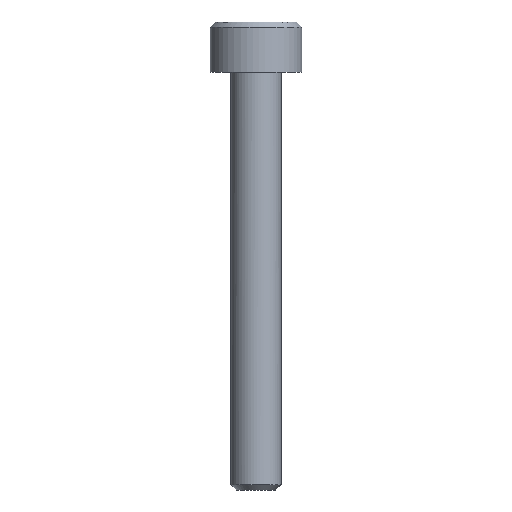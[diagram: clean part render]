
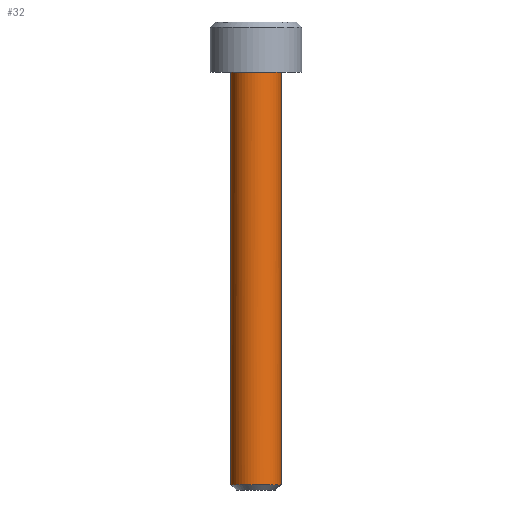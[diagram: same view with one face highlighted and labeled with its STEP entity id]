
A CAD part, left-side view. The second image highlights one B-rep face of the part: STEP entity #32.
In plain terms, the highlighted free-form (B-spline) face has degree [2, 1] with [9, 2] control points.
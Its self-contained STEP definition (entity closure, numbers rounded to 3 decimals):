
#32=ADVANCED_FACE('',(#57),#751,.T.);
#57=FACE_OUTER_BOUND('',#82,.T.);
#82=EDGE_LOOP('',(#115,#116,#117,#118));
#115=ORIENTED_EDGE('',*,*,#528,.T.);
#116=ORIENTED_EDGE('',*,*,#529,.T.);
#117=ORIENTED_EDGE('',*,*,#530,.T.);
#118=ORIENTED_EDGE('',*,*,#531,.T.);
#218=(
BOUNDED_CURVE()
B_SPLINE_CURVE(2,(#1113,#1114,#1115,#1116,#1117),.UNSPECIFIED.,.F.,.F.)
B_SPLINE_CURVE_WITH_KNOTS((3,2,3),(0.,2.356,4.712),
 .UNSPECIFIED.)
CURVE()
GEOMETRIC_REPRESENTATION_ITEM()
RATIONAL_B_SPLINE_CURVE((1.,0.707,1.,0.707,1.))
REPRESENTATION_ITEM('')
);
#219=(
BOUNDED_CURVE()
B_SPLINE_CURVE(2,(#1124,#1125,#1126,#1127,#1128),.UNSPECIFIED.,.F.,.F.)
B_SPLINE_CURVE_WITH_KNOTS((3,2,3),(-4.712,-2.356,0.),
 .UNSPECIFIED.)
CURVE()
GEOMETRIC_REPRESENTATION_ITEM()
RATIONAL_B_SPLINE_CURVE((1.,0.707,1.,0.707,1.))
REPRESENTATION_ITEM('')
);
#246=(
BOUNDED_CURVE()
B_SPLINE_CURVE(2,(#1417,#1418,#1419,#1420,#1421),.UNSPECIFIED.,.F.,.F.)
B_SPLINE_CURVE_WITH_KNOTS((3,2,3),(-4.712,-2.356,0.),
 .UNSPECIFIED.)
CURVE()
GEOMETRIC_REPRESENTATION_ITEM()
RATIONAL_B_SPLINE_CURVE((1.,0.707,1.,0.707,1.))
REPRESENTATION_ITEM('')
);
#259=PCURVE('',#751,#367);
#260=PCURVE('',#751,#368);
#261=PCURVE('',#751,#369);
#262=PCURVE('',#751,#370);
#266=PCURVE('',#752,#374);
#335=PCURVE('',#756,#443);
#337=PCURVE('',#756,#445);
#342=PCURVE('',#747,#450);
#367=DEFINITIONAL_REPRESENTATION('',(#588),#1472);
#368=DEFINITIONAL_REPRESENTATION('',(#589),#1472);
#369=DEFINITIONAL_REPRESENTATION('',(#591),#1472);
#370=DEFINITIONAL_REPRESENTATION('',(#592),#1472);
#374=DEFINITIONAL_REPRESENTATION('',(#598),#1472);
#443=DEFINITIONAL_REPRESENTATION('',(#683),#1472);
#445=DEFINITIONAL_REPRESENTATION('',(#685),#1472);
#450=DEFINITIONAL_REPRESENTATION('',(#246),#1472);
#474=SURFACE_CURVE('',#587,(#259,#335),.PCURVE_S1.);
#475=SURFACE_CURVE('',#218,(#260,#266),.PCURVE_S1.);
#476=SURFACE_CURVE('',#590,(#261,#337),.PCURVE_S1.);
#477=SURFACE_CURVE('',#219,(#262,#342),.PCURVE_S1.);
#528=EDGE_CURVE('',#707,#708,#474,.T.);
#529=EDGE_CURVE('',#708,#709,#475,.T.);
#530=EDGE_CURVE('',#709,#710,#476,.T.);
#531=EDGE_CURVE('',#710,#707,#477,.T.);
#587=B_SPLINE_CURVE_WITH_KNOTS('',1,(#1109,#1110),.UNSPECIFIED.,.F.,.F.,
(2,2),(-24.694,0.),.UNSPECIFIED.);
#588=B_SPLINE_CURVE_WITH_KNOTS('',1,(#1111,#1112),.UNSPECIFIED.,.F.,.F.,
(2,2),(-24.694,0.),.UNSPECIFIED.);
#589=B_SPLINE_CURVE_WITH_KNOTS('',1,(#1118,#1119),.UNSPECIFIED.,.F.,.F.,
(2,2),(0.,4.712),.UNSPECIFIED.);
#590=B_SPLINE_CURVE_WITH_KNOTS('',1,(#1120,#1121),.UNSPECIFIED.,.F.,.F.,
(2,2),(-24.694,0.),.UNSPECIFIED.);
#591=B_SPLINE_CURVE_WITH_KNOTS('',1,(#1122,#1123),.UNSPECIFIED.,.F.,.F.,
(2,2),(-24.694,0.),.UNSPECIFIED.);
#592=B_SPLINE_CURVE_WITH_KNOTS('',1,(#1129,#1130),.UNSPECIFIED.,.F.,.F.,
(2,2),(-4.712,0.),.UNSPECIFIED.);
#598=B_SPLINE_CURVE_WITH_KNOTS('',1,(#1146,#1147),.UNSPECIFIED.,.F.,.F.,
(2,2),(0.,4.712),.UNSPECIFIED.);
#683=B_SPLINE_CURVE_WITH_KNOTS('',1,(#1384,#1385),.UNSPECIFIED.,.F.,.F.,
(2,2),(-24.694,0.),.UNSPECIFIED.);
#685=B_SPLINE_CURVE_WITH_KNOTS('',1,(#1393,#1394),.UNSPECIFIED.,.F.,.F.,
(2,2),(-24.694,0.),.UNSPECIFIED.);
#707=VERTEX_POINT('',#1043);
#708=VERTEX_POINT('',#1044);
#709=VERTEX_POINT('',#1045);
#710=VERTEX_POINT('',#1046);
#747=PLANE('',#813);
#751=(
BOUNDED_SURFACE()
B_SPLINE_SURFACE(2,1,((#878,#879),(#880,#881),(#882,#883),(#884,#885),(#886,
#887),(#888,#889),(#890,#891),(#892,#893),(#894,#895)),.UNSPECIFIED.,.T.,
 .F.,.F.)
B_SPLINE_SURFACE_WITH_KNOTS((3,2,2,2,3),(2,2),(0.,1.571,3.142,
4.712,6.283),(0.,29.635),.UNSPECIFIED.)
GEOMETRIC_REPRESENTATION_ITEM()
RATIONAL_B_SPLINE_SURFACE(((1.,1.),(0.707,0.707),
(1.,1.),(0.707,0.707),(1.,1.),(0.707,
0.707),(1.,1.),(0.707,0.707),(1.,1.)))
REPRESENTATION_ITEM('')
SURFACE()
);
#752=(
BOUNDED_SURFACE()
B_SPLINE_SURFACE(2,1,((#896,#897),(#898,#899),(#900,#901),(#902,#903),(#904,
#905),(#906,#907),(#908,#909),(#910,#911),(#912,#913)),.UNSPECIFIED.,.T.,
 .F.,.F.)
B_SPLINE_SURFACE_WITH_KNOTS((3,2,2,2,3),(2,2),(0.,1.571,3.142,
4.712,6.283),(0.,2.335),.UNSPECIFIED.)
GEOMETRIC_REPRESENTATION_ITEM()
RATIONAL_B_SPLINE_SURFACE(((1.,1.),(0.707,0.707),
(1.,1.),(0.707,0.707),(1.,1.),(0.707,
0.707),(1.,1.),(0.707,0.707),(1.,1.)))
REPRESENTATION_ITEM('')
SURFACE()
);
#756=(
BOUNDED_SURFACE()
B_SPLINE_SURFACE(2,1,((#981,#982),(#983,#984),(#985,#986),(#987,#988),(#989,
#990),(#991,#992),(#993,#994),(#995,#996),(#997,#998)),.UNSPECIFIED.,.T.,
 .F.,.F.)
B_SPLINE_SURFACE_WITH_KNOTS((3,2,2,2,3),(2,2),(0.,1.571,3.142,
4.712,6.283),(0.,29.635),.UNSPECIFIED.)
GEOMETRIC_REPRESENTATION_ITEM()
RATIONAL_B_SPLINE_SURFACE(((1.,1.),(0.707,0.707),
(1.,1.),(0.707,0.707),(1.,1.),(0.707,
0.707),(1.,1.),(0.707,0.707),(1.,1.)))
REPRESENTATION_ITEM('')
SURFACE()
);
#813=AXIS2_PLACEMENT_3D('',#999,#834,$);
#834=DIRECTION('',(1.,0.,0.));
#878=CARTESIAN_POINT('',(-2.471,0.,1.5));
#879=CARTESIAN_POINT('',(27.164,0.,1.5));
#880=CARTESIAN_POINT('',(-2.471,-1.5,1.5));
#881=CARTESIAN_POINT('',(27.164,-1.5,1.5));
#882=CARTESIAN_POINT('',(-2.471,-1.5,0.));
#883=CARTESIAN_POINT('',(27.164,-1.5,0.));
#884=CARTESIAN_POINT('',(-2.471,-1.5,-1.5));
#885=CARTESIAN_POINT('',(27.164,-1.5,-1.5));
#886=CARTESIAN_POINT('',(-2.471,0.,-1.5));
#887=CARTESIAN_POINT('',(27.164,0.,-1.5));
#888=CARTESIAN_POINT('',(-2.471,1.5,-1.5));
#889=CARTESIAN_POINT('',(27.164,1.5,-1.5));
#890=CARTESIAN_POINT('',(-2.471,1.5,0.));
#891=CARTESIAN_POINT('',(27.164,1.5,0.));
#892=CARTESIAN_POINT('',(-2.471,1.5,1.5));
#893=CARTESIAN_POINT('',(27.164,1.5,1.5));
#894=CARTESIAN_POINT('',(-2.471,0.,1.5));
#895=CARTESIAN_POINT('',(27.164,0.,1.5));
#896=CARTESIAN_POINT('',(26.194,0.,0.));
#897=CARTESIAN_POINT('',(24.542,0.,1.651));
#898=CARTESIAN_POINT('',(26.194,0.,0.));
#899=CARTESIAN_POINT('',(24.542,1.651,1.651));
#900=CARTESIAN_POINT('',(26.194,0.,0.));
#901=CARTESIAN_POINT('',(24.542,1.651,0.));
#902=CARTESIAN_POINT('',(26.194,0.,0.));
#903=CARTESIAN_POINT('',(24.542,1.651,-1.651));
#904=CARTESIAN_POINT('',(26.194,0.,0.));
#905=CARTESIAN_POINT('',(24.542,0.,-1.651));
#906=CARTESIAN_POINT('',(26.194,0.,0.));
#907=CARTESIAN_POINT('',(24.542,-1.651,-1.651));
#908=CARTESIAN_POINT('',(26.194,0.,0.));
#909=CARTESIAN_POINT('',(24.542,-1.651,0.));
#910=CARTESIAN_POINT('',(26.194,0.,0.));
#911=CARTESIAN_POINT('',(24.542,-1.651,1.651));
#912=CARTESIAN_POINT('',(26.194,0.,0.));
#913=CARTESIAN_POINT('',(24.542,0.,1.651));
#981=CARTESIAN_POINT('',(-2.471,0.,-1.5));
#982=CARTESIAN_POINT('',(27.164,0.,-1.5));
#983=CARTESIAN_POINT('',(-2.471,1.5,-1.5));
#984=CARTESIAN_POINT('',(27.164,1.5,-1.5));
#985=CARTESIAN_POINT('',(-2.471,1.5,0.));
#986=CARTESIAN_POINT('',(27.164,1.5,0.));
#987=CARTESIAN_POINT('',(-2.471,1.5,1.5));
#988=CARTESIAN_POINT('',(27.164,1.5,1.5));
#989=CARTESIAN_POINT('',(-2.471,0.,1.5));
#990=CARTESIAN_POINT('',(27.164,0.,1.5));
#991=CARTESIAN_POINT('',(-2.471,-1.5,1.5));
#992=CARTESIAN_POINT('',(27.164,-1.5,1.5));
#993=CARTESIAN_POINT('',(-2.471,-1.5,0.));
#994=CARTESIAN_POINT('',(27.164,-1.5,0.));
#995=CARTESIAN_POINT('',(-2.471,-1.5,-1.5));
#996=CARTESIAN_POINT('',(27.164,-1.5,-1.5));
#997=CARTESIAN_POINT('',(-2.471,0.,-1.5));
#998=CARTESIAN_POINT('',(27.164,0.,-1.5));
#999=CARTESIAN_POINT('',(0.,3.301,3.301));
#1043=CARTESIAN_POINT('',(0.,1.5,0.));
#1044=CARTESIAN_POINT('',(24.694,1.5,0.));
#1045=CARTESIAN_POINT('',(24.694,-1.5,0.));
#1046=CARTESIAN_POINT('',(0.,-1.5,0.));
#1109=CARTESIAN_POINT('',(0.,1.5,0.));
#1110=CARTESIAN_POINT('',(24.694,1.5,0.));
#1111=CARTESIAN_POINT('',(4.712,2.471));
#1112=CARTESIAN_POINT('',(4.712,27.164));
#1113=CARTESIAN_POINT('',(24.694,1.5,0.));
#1114=CARTESIAN_POINT('',(24.694,1.5,-1.5));
#1115=CARTESIAN_POINT('',(24.694,0.,-1.5));
#1116=CARTESIAN_POINT('',(24.694,-1.5,-1.5));
#1117=CARTESIAN_POINT('',(24.694,-1.5,0.));
#1118=CARTESIAN_POINT('',(4.712,27.164));
#1119=CARTESIAN_POINT('',(1.571,27.164));
#1120=CARTESIAN_POINT('',(24.694,-1.5,0.));
#1121=CARTESIAN_POINT('',(0.,-1.5,0.));
#1122=CARTESIAN_POINT('',(1.571,27.164));
#1123=CARTESIAN_POINT('',(1.571,2.471));
#1124=CARTESIAN_POINT('',(0.,-1.5,0.));
#1125=CARTESIAN_POINT('',(0.,-1.5,-1.5));
#1126=CARTESIAN_POINT('',(0.,0.,-1.5));
#1127=CARTESIAN_POINT('',(0.,1.5,-1.5));
#1128=CARTESIAN_POINT('',(0.,1.5,0.));
#1129=CARTESIAN_POINT('',(1.571,2.471));
#1130=CARTESIAN_POINT('',(4.712,2.471));
#1146=CARTESIAN_POINT('',(1.571,2.121));
#1147=CARTESIAN_POINT('',(4.712,2.121));
#1384=CARTESIAN_POINT('',(1.571,2.471));
#1385=CARTESIAN_POINT('',(1.571,27.164));
#1393=CARTESIAN_POINT('',(4.712,27.164));
#1394=CARTESIAN_POINT('',(4.712,2.471));
#1417=CARTESIAN_POINT('',(3.625,0.));
#1418=CARTESIAN_POINT('',(3.625,1.5));
#1419=CARTESIAN_POINT('',(2.125,1.5));
#1420=CARTESIAN_POINT('',(0.625,1.5));
#1421=CARTESIAN_POINT('',(0.625,0.));
#1472=(
GEOMETRIC_REPRESENTATION_CONTEXT(2)
PARAMETRIC_REPRESENTATION_CONTEXT()
REPRESENTATION_CONTEXT('pspace','')
);
